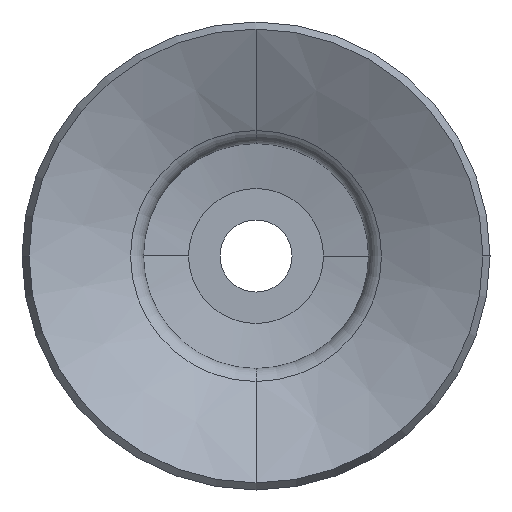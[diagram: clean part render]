
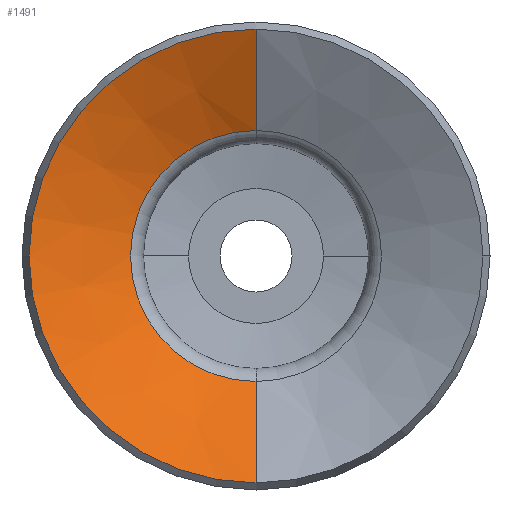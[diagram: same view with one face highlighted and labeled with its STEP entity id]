
A CAD part, front view. The second image highlights one B-rep face of the part: STEP entity #1491.
In plain terms, the highlighted conical face has half-angle 63.353 degrees and reference radius 13.948 mm.
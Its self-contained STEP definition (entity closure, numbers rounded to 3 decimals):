
#50 = DIRECTION ( 'NONE',  ( 0., 1., 0. ) ) ;
#80 = DIRECTION ( 'NONE',  ( 0., -1., 0. ) ) ;
#98 = VERTEX_POINT ( 'NONE', #320 ) ;
#105 = CARTESIAN_POINT ( 'NONE',  ( 0., -49., 0. ) ) ;
#118 = AXIS2_PLACEMENT_3D ( 'NONE', #699, #1063, #1101 ) ;
#119 = DIRECTION ( 'NONE',  ( 0., -0.448, 0.894 ) ) ;
#138 = AXIS2_PLACEMENT_3D ( 'NONE', #660, #50, #939 ) ;
#171 = DIRECTION ( 'NONE',  ( 0., 0., 1. ) ) ;
#174 = EDGE_CURVE ( 'NONE', #226, #765, #1792, .T. ) ;
#214 = VECTOR ( 'NONE', #1241, 1000. ) ;
#226 = VERTEX_POINT ( 'NONE', #1112 ) ;
#240 = CARTESIAN_POINT ( 'NONE',  ( 0., -49., -25.215 ) ) ;
#246 = VERTEX_POINT ( 'NONE', #240 ) ;
#247 = ORIENTED_EDGE ( 'NONE', *, *, #813, .T. ) ;
#313 = CONICAL_SURFACE ( 'NONE', #935, 13.948, 1.106 ) ;
#320 = CARTESIAN_POINT ( 'NONE',  ( -25.215, -49., 0. ) ) ;
#324 = EDGE_CURVE ( 'NONE', #98, #246, #422, .T. ) ;
#358 = DIRECTION ( 'NONE',  ( 0., -1., 0. ) ) ;
#360 = EDGE_CURVE ( 'NONE', #765, #1594, #1057, .T. ) ;
#422 = CIRCLE ( 'NONE', #1642, 25.215 ) ;
#501 = DIRECTION ( 'NONE',  ( 0., 0., -1. ) ) ;
#601 = CARTESIAN_POINT ( 'NONE',  ( 0., -43.346, 13.948 ) ) ;
#647 = LINE ( 'NONE', #1017, #214 ) ;
#660 = CARTESIAN_POINT ( 'NONE',  ( 0., -43.346, 0. ) ) ;
#676 = CIRCLE ( 'NONE', #118, 25.215 ) ;
#699 = CARTESIAN_POINT ( 'NONE',  ( 0., -49., 0. ) ) ;
#733 = ORIENTED_EDGE ( 'NONE', *, *, #1381, .F. ) ;
#765 = VERTEX_POINT ( 'NONE', #1215 ) ;
#813 = EDGE_CURVE ( 'NONE', #1594, #98, #676, .T. ) ;
#935 = AXIS2_PLACEMENT_3D ( 'NONE', #1686, #358, #501 ) ;
#939 = DIRECTION ( 'NONE',  ( 1., 0., 0. ) ) ;
#949 = FACE_OUTER_BOUND ( 'NONE', #1692, .T. ) ;
#971 = ORIENTED_EDGE ( 'NONE', *, *, #360, .T. ) ;
#1017 = CARTESIAN_POINT ( 'NONE',  ( 0., -43.346, -13.948 ) ) ;
#1035 = ORIENTED_EDGE ( 'NONE', *, *, #324, .T. ) ;
#1057 = LINE ( 'NONE', #601, #1720 ) ;
#1063 = DIRECTION ( 'NONE',  ( 0., -1., 0. ) ) ;
#1085 = CARTESIAN_POINT ( 'NONE',  ( 0., -49., 25.215 ) ) ;
#1101 = DIRECTION ( 'NONE',  ( 0., 0., 1. ) ) ;
#1107 = ORIENTED_EDGE ( 'NONE', *, *, #174, .T. ) ;
#1112 = CARTESIAN_POINT ( 'NONE',  ( 0., -43.346, -13.948 ) ) ;
#1215 = CARTESIAN_POINT ( 'NONE',  ( 0., -43.346, 13.948 ) ) ;
#1241 = DIRECTION ( 'NONE',  ( 0., -0.448, -0.894 ) ) ;
#1381 = EDGE_CURVE ( 'NONE', #226, #246, #647, .T. ) ;
#1491 = ADVANCED_FACE ( 'NONE', ( #949 ), #313, .F. ) ;
#1594 = VERTEX_POINT ( 'NONE', #1085 ) ;
#1642 = AXIS2_PLACEMENT_3D ( 'NONE', #105, #80, #171 ) ;
#1686 = CARTESIAN_POINT ( 'NONE',  ( 0., -43.346, 0. ) ) ;
#1692 = EDGE_LOOP ( 'NONE', ( #1107, #971, #247, #1035, #733 ) ) ;
#1720 = VECTOR ( 'NONE', #119, 1000. ) ;
#1792 = CIRCLE ( 'NONE', #138, 13.948 ) ;
